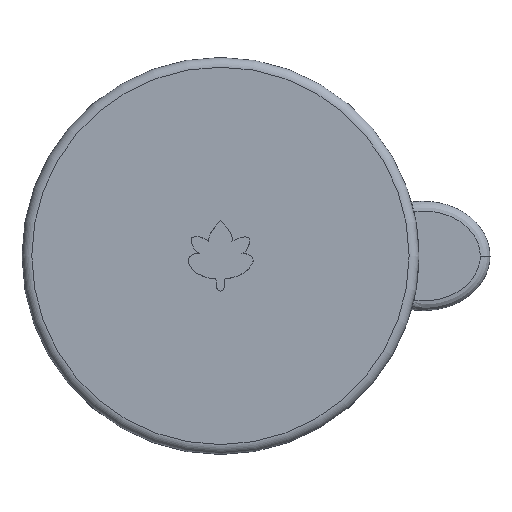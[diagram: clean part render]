
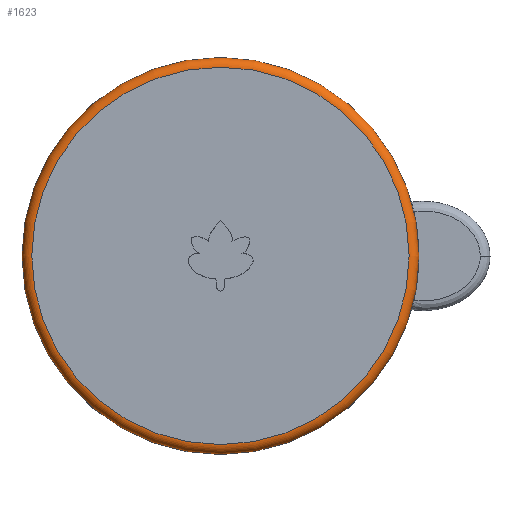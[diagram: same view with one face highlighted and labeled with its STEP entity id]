
A CAD part, top view. The second image highlights one B-rep face of the part: STEP entity #1623.
In plain terms, the highlighted toroidal (fillet/blend) face has major radius 24.137 mm and minor radius 1.264 mm.
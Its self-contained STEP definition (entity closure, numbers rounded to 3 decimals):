
#21 = EDGE_CURVE('',#22,#22,#24,.T.);
#22 = VERTEX_POINT('',#23);
#23 = CARTESIAN_POINT('',(24.15,0.,4.25));
#24 = SURFACE_CURVE('',#25,(#30,#42),.PCURVE_S1.);
#25 = CIRCLE('',#26,24.15);
#26 = AXIS2_PLACEMENT_3D('',#27,#28,#29);
#27 = CARTESIAN_POINT('',(0.,0.,4.25));
#28 = DIRECTION('',(0.,0.,1.));
#29 = DIRECTION('',(1.,0.,-0.));
#30 = PCURVE('',#31,#36);
#31 = PLANE('',#32);
#32 = AXIS2_PLACEMENT_3D('',#33,#34,#35);
#33 = CARTESIAN_POINT('',(0.,0.,4.25));
#34 = DIRECTION('',(0.,0.,1.));
#35 = DIRECTION('',(1.,0.,-0.));
#36 = DEFINITIONAL_REPRESENTATION('',(#37),#41);
#37 = CIRCLE('',#38,24.15);
#38 = AXIS2_PLACEMENT_2D('',#39,#40);
#39 = CARTESIAN_POINT('',(0.,0.));
#40 = DIRECTION('',(1.,-0.));
#41 = ( GEOMETRIC_REPRESENTATION_CONTEXT(2) 
PARAMETRIC_REPRESENTATION_CONTEXT() REPRESENTATION_CONTEXT('2D SPACE',''
  ) );
#42 = PCURVE('',#43,#48);
#43 = TOROIDAL_SURFACE('',#44,24.137,1.264);
#44 = AXIS2_PLACEMENT_3D('',#45,#46,#47);
#45 = CARTESIAN_POINT('',(0.,0.,2.987));
#46 = DIRECTION('',(-0.,-0.,-1.));
#47 = DIRECTION('',(1.,0.,-0.));
#48 = DEFINITIONAL_REPRESENTATION('',(#49),#53);
#49 = LINE('',#50,#51);
#50 = CARTESIAN_POINT('',(-0.,4.723));
#51 = VECTOR('',#52,1.);
#52 = DIRECTION('',(-1.,0.));
#53 = ( GEOMETRIC_REPRESENTATION_CONTEXT(2) 
PARAMETRIC_REPRESENTATION_CONTEXT() REPRESENTATION_CONTEXT('2D SPACE',''
  ) );
#1623 = ADVANCED_FACE('',(#1624),#43,.T.);
#1624 = FACE_BOUND('',#1625,.F.);
#1625 = EDGE_LOOP('',(#1626,#1627,#1651,#1678));
#1626 = ORIENTED_EDGE('',*,*,#21,.T.);
#1627 = ORIENTED_EDGE('',*,*,#1628,.T.);
#1628 = EDGE_CURVE('',#22,#1629,#1631,.T.);
#1629 = VERTEX_POINT('',#1630);
#1630 = CARTESIAN_POINT('',(25.4,0.,3.));
#1631 = SEAM_CURVE('',#1632,(#1637,#1644),.PCURVE_S1.);
#1632 = CIRCLE('',#1633,1.264);
#1633 = AXIS2_PLACEMENT_3D('',#1634,#1635,#1636);
#1634 = CARTESIAN_POINT('',(24.137,0.,2.987));
#1635 = DIRECTION('',(0.,1.,0.));
#1636 = DIRECTION('',(0.011,-0.,1.));
#1637 = PCURVE('',#43,#1638);
#1638 = DEFINITIONAL_REPRESENTATION('',(#1639),#1643);
#1639 = LINE('',#1640,#1641);
#1640 = CARTESIAN_POINT('',(-0.,4.723));
#1641 = VECTOR('',#1642,1.);
#1642 = DIRECTION('',(-0.,1.));
#1643 = ( GEOMETRIC_REPRESENTATION_CONTEXT(2) 
PARAMETRIC_REPRESENTATION_CONTEXT() REPRESENTATION_CONTEXT('2D SPACE',''
  ) );
#1644 = PCURVE('',#43,#1645);
#1645 = DEFINITIONAL_REPRESENTATION('',(#1646),#1650);
#1646 = LINE('',#1647,#1648);
#1647 = CARTESIAN_POINT('',(-6.283,4.723));
#1648 = VECTOR('',#1649,1.);
#1649 = DIRECTION('',(-0.,1.));
#1650 = ( GEOMETRIC_REPRESENTATION_CONTEXT(2) 
PARAMETRIC_REPRESENTATION_CONTEXT() REPRESENTATION_CONTEXT('2D SPACE',''
  ) );
#1651 = ORIENTED_EDGE('',*,*,#1652,.F.);
#1652 = EDGE_CURVE('',#1629,#1629,#1653,.T.);
#1653 = SURFACE_CURVE('',#1654,(#1659,#1666),.PCURVE_S1.);
#1654 = CIRCLE('',#1655,25.4);
#1655 = AXIS2_PLACEMENT_3D('',#1656,#1657,#1658);
#1656 = CARTESIAN_POINT('',(0.,0.,3.));
#1657 = DIRECTION('',(0.,0.,1.));
#1658 = DIRECTION('',(1.,0.,-0.));
#1659 = PCURVE('',#43,#1660);
#1660 = DEFINITIONAL_REPRESENTATION('',(#1661),#1665);
#1661 = LINE('',#1662,#1663);
#1662 = CARTESIAN_POINT('',(-0.,6.273));
#1663 = VECTOR('',#1664,1.);
#1664 = DIRECTION('',(-1.,0.));
#1665 = ( GEOMETRIC_REPRESENTATION_CONTEXT(2) 
PARAMETRIC_REPRESENTATION_CONTEXT() REPRESENTATION_CONTEXT('2D SPACE',''
  ) );
#1666 = PCURVE('',#1667,#1672);
#1667 = CYLINDRICAL_SURFACE('',#1668,25.4);
#1668 = AXIS2_PLACEMENT_3D('',#1669,#1670,#1671);
#1669 = CARTESIAN_POINT('',(0.,0.,3.));
#1670 = DIRECTION('',(-0.,-0.,-1.));
#1671 = DIRECTION('',(1.,0.,0.));
#1672 = DEFINITIONAL_REPRESENTATION('',(#1673),#1677);
#1673 = LINE('',#1674,#1675);
#1674 = CARTESIAN_POINT('',(-0.,0.));
#1675 = VECTOR('',#1676,1.);
#1676 = DIRECTION('',(-1.,0.));
#1677 = ( GEOMETRIC_REPRESENTATION_CONTEXT(2) 
PARAMETRIC_REPRESENTATION_CONTEXT() REPRESENTATION_CONTEXT('2D SPACE',''
  ) );
#1678 = ORIENTED_EDGE('',*,*,#1628,.F.);
